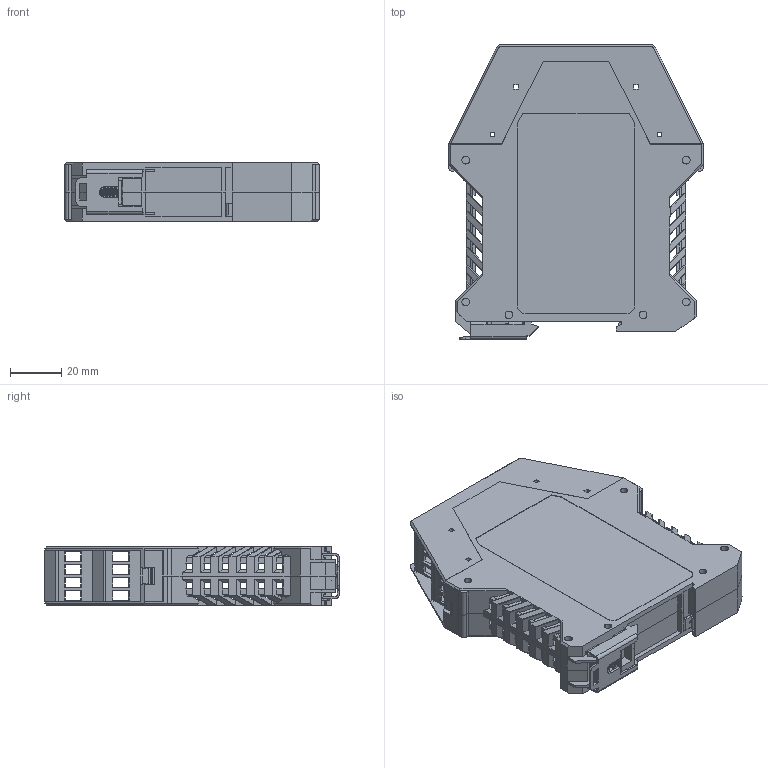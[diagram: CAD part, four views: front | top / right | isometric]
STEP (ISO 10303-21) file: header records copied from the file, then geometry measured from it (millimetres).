
FILE_DESCRIPTION((''),'2;1');
FILE_NAME('AN225_ASM','2022-06-27T',('renkang.li'),(''),'CREO PARAMETRIC BY PTC INC, 2016260','CREO PARAMETRIC BY PTC INC, 2016260','');
FILE_SCHEMA(('CONFIG_CONTROL_DESIGN'));
Length unit declared in the file: millimetre
Products named in the file (9): RT9341COVER; UTL-B____1; UTL_A___1; UTL-KAGOU1-01____1; UTL-KAGOU__1; UTL-DANPIAN__1; ME-22-5-0_ASM_1_ASM; SPRING; AN225_ASM
Assembly tree (9 placements, depth 3):
  AN225_ASM
    RT9341COVER
    ME-22-5-0_ASM_1_ASM
      UTL-B____1
      UTL_A___1
      UTL-KAGOU1-01____1
      UTL-KAGOU__1  x2
      UTL-DANPIAN__1
    SPRING
Bounding box: 99 x 114.3 x 22.7 mm (x, y, z)
Volume: 39747.2 mm3; surface area: 63463.5 mm2
Topology: 8 solids, 8 shells, 1686 faces, 4937 edges, 3168 vertices
Faces by surface type: plane 1195, cylinder 369, cone 52, sphere 42, bspline 16, torus 12
Entity records: 57754 total; most frequent: CARTESIAN_POINT 13242, ORIENTED_EDGE 9660, DIRECTION 8766, EDGE_CURVE 4830, VECTOR 3860, LINE 3860, VERTEX_POINT 3118, AXIS2_PLACEMENT_3D 2453
